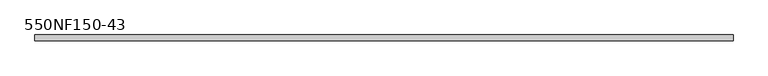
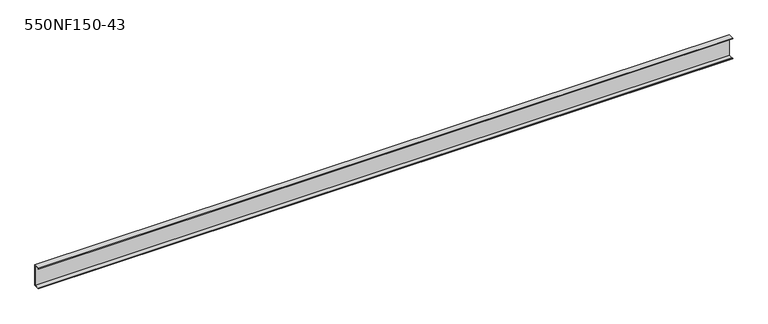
"""IFC4 building model written with IfcOpenShell, lengths in millimetres: beam geometry, BIMSF-SSMA-S : 550NF150-43."""

from ifc_helpers import new_model, si_unit, frame, origin, place, context, project, spatial, polyline, outline, extrude, source, transform, mapped, element, save


def beam_550nf150_43_d8185aa4(model_context):
    return source(origin(), model_context, "Body", "SweptSolid", [
        extrude(outline(polyline([(19.05, 69.85), (19.05, -69.85), (-19.05, -69.85), (-19.05, -65.0748), (-17.9003158, -65.0748), (-17.9003158, -68.7003158), (17.9003158, -68.7003158), (17.9003158, 68.7003158), (-17.9003158, 68.7003158), (-17.9003158, 65.0748), (-19.05, 65.0748), (-19.05, 69.85), (19.05, 69.85)])), frame((-2241.4729968, 0.0, 0.0), z_axis=(1.0, 0.0, 0.0), x_axis=(0.0, 1.0, 0.0)), (0.0, 0.0, 1.0), 4482.9459936),
    ])


if __name__ == "__main__":
    model = new_model("IFC4")
    model_context = context("Model", 3, world=origin())
    ifc_project = project(units=[si_unit("LENGTHUNIT", "METRE", prefix="MILLI")], contexts=[model_context])
    site = spatial("IfcSite", under=ifc_project)
    building = spatial("IfcBuilding", under=site)
    placement = place(None, origin())
    beam_550nf150_43_shape = beam_550nf150_43_d8185aa4(model_context)
    element("IfcBeam", 1, ObjectType="BIMSF-SSMA-S : 550NF150-43", at=placement, inside=building, context=model_context, shape_type="MappedRepresentation", body=[
        mapped(beam_550nf150_43_shape, transform((0.0, 0.0, 0.0), x_axis=(1.0, 0.0, 0.0), y_axis=(0.0, 1.0, 0.0), z_axis=(0.0, 0.0, 1.0))),
    ])
    save(model, "model.ifc")
